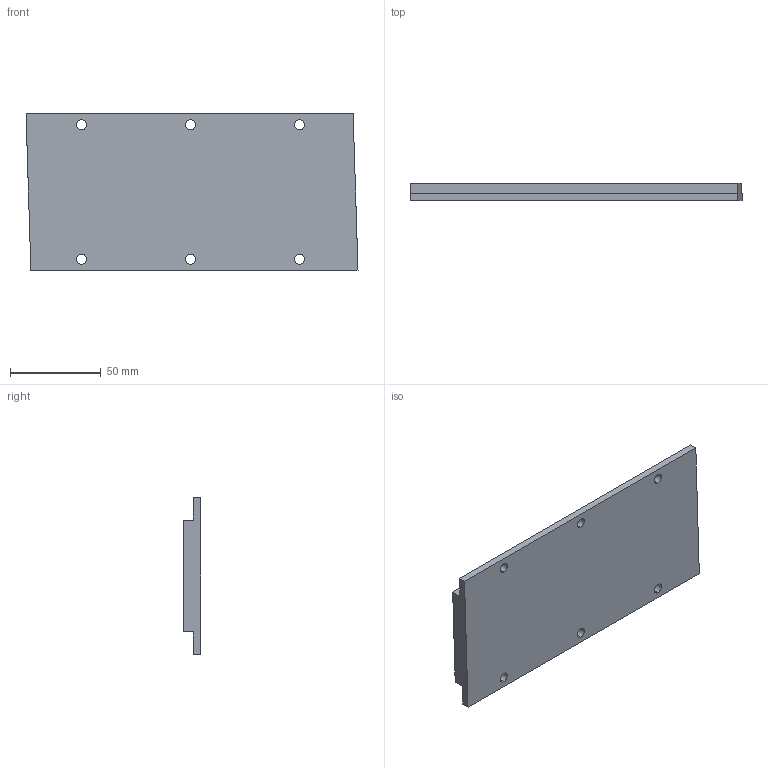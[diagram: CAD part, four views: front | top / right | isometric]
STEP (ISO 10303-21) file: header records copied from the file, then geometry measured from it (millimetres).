
FILE_DESCRIPTION (( 'STEP AP214' ), '1' );
FILE_NAME ('隅赽MK2-180.STEP', '2025-09-05T08:58:05', ( '' ), ( '' ), 'SwSTEP 2.0', 'SolidWorks 2016', '' );
FILE_SCHEMA (( 'AUTOMOTIVE_DESIGN' ));
Length unit declared in the file: millimetre
Products named in the file (1): 隅赽MK2-180
Bounding box: 182.7 x 9.6 x 86 mm (x, y, z)
Volume: 123436.3 mm3; surface area: 35938.6 mm2
Topology: 1 solids, 1 shells, 52 faces, 144 edges, 96 vertices
Faces by surface type: plane 28, cylinder 12, bspline 12
Entity records: 2390 total; most frequent: CARTESIAN_POINT 1057, ORIENTED_EDGE 288, DIRECTION 226, EDGE_CURVE 144, VERTEX_POINT 96, VECTOR 96, LINE 96, EDGE_LOOP 66
